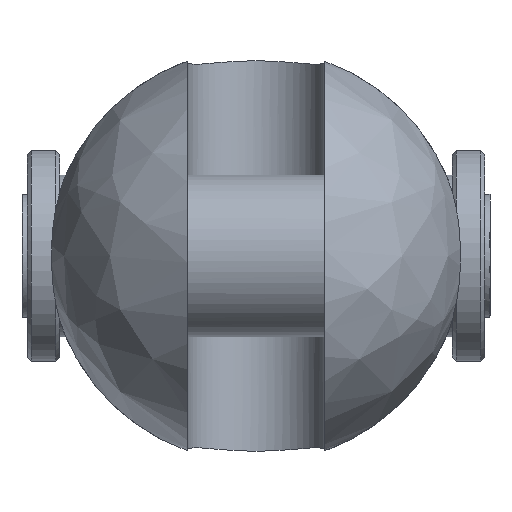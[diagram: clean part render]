
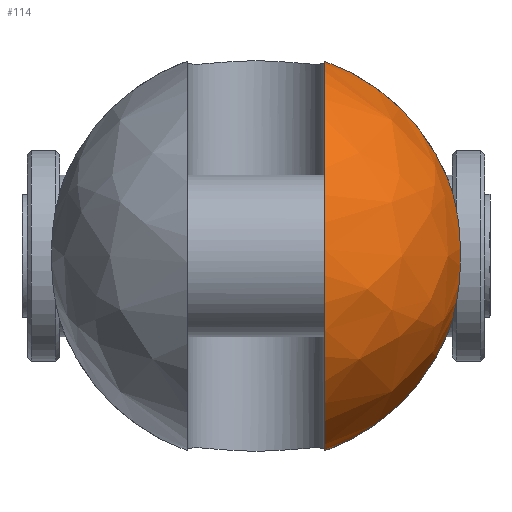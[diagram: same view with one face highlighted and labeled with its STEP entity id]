
A CAD part, left-side view. The second image highlights one B-rep face of the part: STEP entity #114.
In plain terms, the highlighted free-form (B-spline) face has degree [2, 2] with [9, 5] control points.
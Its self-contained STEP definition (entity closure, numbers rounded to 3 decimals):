
#114=ADVANCED_FACE('',(#203),#1555,.T.);
#203=FACE_OUTER_BOUND('',#303,.T.);
#303=EDGE_LOOP('',(#755,#756,#757,#758));
#755=ORIENTED_EDGE('',*,*,#1014,.T.);
#756=ORIENTED_EDGE('',*,*,#1011,.F.);
#757=ORIENTED_EDGE('',*,*,#1028,.T.);
#758=ORIENTED_EDGE('',*,*,#1006,.F.);
#1006=EDGE_CURVE('',#1444,#1445,#1273,.T.);
#1011=EDGE_CURVE('',#1452,#1453,#1274,.T.);
#1014=EDGE_CURVE('',#1444,#1453,#1276,.T.);
#1028=EDGE_CURVE('',#1452,#1445,#1139,.T.);
#1139=B_SPLINE_CURVE_WITH_KNOTS('',3,(#3561,#3562,#3563,#3564,#3565,#3566,
#3567,#3568,#3569,#3570,#3571,#3572,#3573,#3574),.UNSPECIFIED.,.F.,.F.,
(4,2,2,2,2,2,4),(0.,2.715,6.504,10.293,
14.082,17.871,20.587),.UNSPECIFIED.);
#1273=(
BOUNDED_CURVE()
B_SPLINE_CURVE(2,(#3503,#3504,#3505),.UNSPECIFIED.,.F.,.F.)
B_SPLINE_CURVE_WITH_KNOTS((3,3),(0.,21.913),.UNSPECIFIED.)
CURVE()
GEOMETRIC_REPRESENTATION_ITEM()
RATIONAL_B_SPLINE_CURVE((1.,0.909,1.))
REPRESENTATION_ITEM('')
);
#1274=(
BOUNDED_CURVE()
B_SPLINE_CURVE(2,(#3514,#3515,#3516),.UNSPECIFIED.,.F.,.F.)
B_SPLINE_CURVE_WITH_KNOTS((3,3),(0.,21.913),.UNSPECIFIED.)
CURVE()
GEOMETRIC_REPRESENTATION_ITEM()
RATIONAL_B_SPLINE_CURVE((1.,0.909,1.))
REPRESENTATION_ITEM('')
);
#1276=(
BOUNDED_CURVE()
B_SPLINE_CURVE(2,(#3522,#3523,#3524,#3525,#3526),.UNSPECIFIED.,.F.,.F.)
B_SPLINE_CURVE_WITH_KNOTS((3,2,3),(-75.529,-37.765,
0.),.UNSPECIFIED.)
CURVE()
GEOMETRIC_REPRESENTATION_ITEM()
RATIONAL_B_SPLINE_CURVE((1.,0.707,1.,0.707,1.))
REPRESENTATION_ITEM('')
);
#1444=VERTEX_POINT('',#3335);
#1445=VERTEX_POINT('',#3336);
#1452=VERTEX_POINT('',#3343);
#1453=VERTEX_POINT('',#3344);
#1555=(
BOUNDED_SURFACE()
B_SPLINE_SURFACE(2,2,((#3207,#3208,#3209,#3210,#3211),(#3212,#3213,#3214,
#3215,#3216),(#3217,#3218,#3219,#3220,#3221),(#3222,#3223,#3224,#3225,#3226),
(#3227,#3228,#3229,#3230,#3231),(#3232,#3233,#3234,#3235,#3236),(#3237,
#3238,#3239,#3240,#3241),(#3242,#3243,#3244,#3245,#3246),(#3247,#3248,#3249,
#3250,#3251)),.UNSPECIFIED.,.T.,.F.,.F.)
B_SPLINE_SURFACE_WITH_KNOTS((3,2,2,2,3),(3,2,3),(0.,40.055,80.111,
120.166,160.221),(0.,40.055,80.111),
 .UNSPECIFIED.)
GEOMETRIC_REPRESENTATION_ITEM()
RATIONAL_B_SPLINE_SURFACE(((1.,0.707,1.,0.707,1.),
(0.707,0.5,0.707,0.5,0.707),(1.,0.707,
1.,0.707,1.),(0.707,0.5,0.707,0.5,0.707),
(1.,0.707,1.,0.707,1.),(0.707,0.5,0.707,
0.5,0.707),(1.,0.707,1.,0.707,1.),(0.707,
0.5,0.707,0.5,0.707),(1.,0.707,1.,0.707,
1.)))
REPRESENTATION_ITEM('')
SURFACE()
);
#3207=CARTESIAN_POINT('',(-36.,0.,0.));
#3208=CARTESIAN_POINT('',(-36.,25.5,0.));
#3209=CARTESIAN_POINT('',(-10.5,25.5,0.));
#3210=CARTESIAN_POINT('',(15.,25.5,0.));
#3211=CARTESIAN_POINT('',(15.,0.,0.));
#3212=CARTESIAN_POINT('',(-36.,0.,0.));
#3213=CARTESIAN_POINT('',(-36.,25.5,25.5));
#3214=CARTESIAN_POINT('',(-10.5,25.5,25.5));
#3215=CARTESIAN_POINT('',(15.,25.5,25.5));
#3216=CARTESIAN_POINT('',(15.,0.,0.));
#3217=CARTESIAN_POINT('',(-36.,0.,0.));
#3218=CARTESIAN_POINT('',(-36.,0.,25.5));
#3219=CARTESIAN_POINT('',(-10.5,0.,25.5));
#3220=CARTESIAN_POINT('',(15.,0.,25.5));
#3221=CARTESIAN_POINT('',(15.,0.,0.));
#3222=CARTESIAN_POINT('',(-36.,0.,0.));
#3223=CARTESIAN_POINT('',(-36.,-25.5,25.5));
#3224=CARTESIAN_POINT('',(-10.5,-25.5,25.5));
#3225=CARTESIAN_POINT('',(15.,-25.5,25.5));
#3226=CARTESIAN_POINT('',(15.,0.,0.));
#3227=CARTESIAN_POINT('',(-36.,0.,0.));
#3228=CARTESIAN_POINT('',(-36.,-25.5,0.));
#3229=CARTESIAN_POINT('',(-10.5,-25.5,0.));
#3230=CARTESIAN_POINT('',(15.,-25.5,0.));
#3231=CARTESIAN_POINT('',(15.,0.,0.));
#3232=CARTESIAN_POINT('',(-36.,0.,0.));
#3233=CARTESIAN_POINT('',(-36.,-25.5,-25.5));
#3234=CARTESIAN_POINT('',(-10.5,-25.5,-25.5));
#3235=CARTESIAN_POINT('',(15.,-25.5,-25.5));
#3236=CARTESIAN_POINT('',(15.,0.,0.));
#3237=CARTESIAN_POINT('',(-36.,0.,0.));
#3238=CARTESIAN_POINT('',(-36.,0.,-25.5));
#3239=CARTESIAN_POINT('',(-10.5,0.,-25.5));
#3240=CARTESIAN_POINT('',(15.,0.,-25.5));
#3241=CARTESIAN_POINT('',(15.,0.,0.));
#3242=CARTESIAN_POINT('',(-36.,0.,0.));
#3243=CARTESIAN_POINT('',(-36.,25.5,-25.5));
#3244=CARTESIAN_POINT('',(-10.5,25.5,-25.5));
#3245=CARTESIAN_POINT('',(15.,25.5,-25.5));
#3246=CARTESIAN_POINT('',(15.,0.,0.));
#3247=CARTESIAN_POINT('',(-36.,0.,0.));
#3248=CARTESIAN_POINT('',(-36.,25.5,0.));
#3249=CARTESIAN_POINT('',(-10.5,25.5,0.));
#3250=CARTESIAN_POINT('',(15.,25.5,0.));
#3251=CARTESIAN_POINT('',(15.,0.,0.));
#3335=CARTESIAN_POINT('',(-10.5,-8.5,24.042));
#3336=CARTESIAN_POINT('',(-10.5,-23.759,9.26));
#3343=CARTESIAN_POINT('',(-10.5,-23.759,-9.26));
#3344=CARTESIAN_POINT('',(-10.5,-8.5,-24.042));
#3503=CARTESIAN_POINT('',(-10.5,-8.5,24.042));
#3504=CARTESIAN_POINT('',(-10.5,-19.516,20.147));
#3505=CARTESIAN_POINT('',(-10.5,-23.759,9.26));
#3514=CARTESIAN_POINT('',(-10.5,-23.759,-9.26));
#3515=CARTESIAN_POINT('',(-10.5,-19.516,-20.147));
#3516=CARTESIAN_POINT('',(-10.5,-8.5,-24.042));
#3522=CARTESIAN_POINT('',(-10.5,-8.5,24.042));
#3523=CARTESIAN_POINT('',(-34.542,-8.5,24.042));
#3524=CARTESIAN_POINT('',(-34.542,-8.5,0.));
#3525=CARTESIAN_POINT('',(-34.542,-8.5,-24.042));
#3526=CARTESIAN_POINT('',(-10.5,-8.5,-24.042));
#3561=CARTESIAN_POINT('',(-10.5,-23.759,-9.26));
#3562=CARTESIAN_POINT('',(-11.084,-24.017,-8.598));
#3563=CARTESIAN_POINT('',(-11.6,-24.241,-7.883));
#3564=CARTESIAN_POINT('',(-12.628,-24.683,-6.156));
#3565=CARTESIAN_POINT('',(-13.15,-24.903,-4.974));
#3566=CARTESIAN_POINT('',(-13.836,-25.191,-2.495));
#3567=CARTESIAN_POINT('',(-14.,-25.259,-1.199));
#3568=CARTESIAN_POINT('',(-14.,-25.259,1.199));
#3569=CARTESIAN_POINT('',(-13.836,-25.191,2.495));
#3570=CARTESIAN_POINT('',(-13.15,-24.903,4.974));
#3571=CARTESIAN_POINT('',(-12.628,-24.683,6.156));
#3572=CARTESIAN_POINT('',(-11.6,-24.241,7.883));
#3573=CARTESIAN_POINT('',(-11.084,-24.017,8.598));
#3574=CARTESIAN_POINT('',(-10.5,-23.759,9.26));
